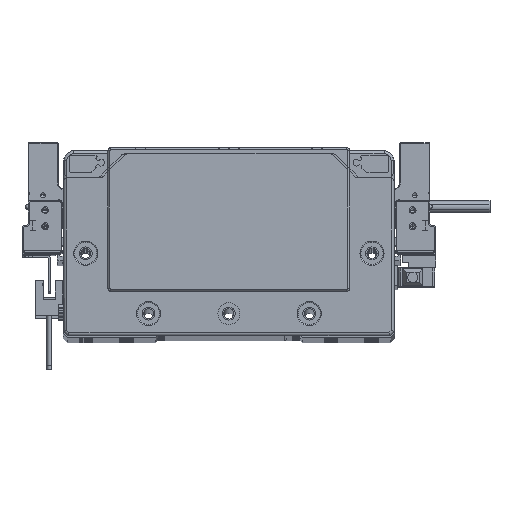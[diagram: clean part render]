
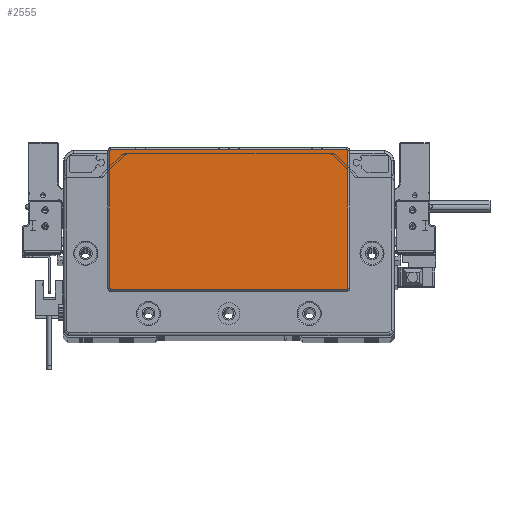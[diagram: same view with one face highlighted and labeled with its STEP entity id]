
A CAD part, top view. The second image highlights one B-rep face of the part: STEP entity #2555.
In plain terms, the highlighted planar face has unit normal (0, 0, 1) as drawn and (0, 0, -1) by its records, which use the part's own axes.
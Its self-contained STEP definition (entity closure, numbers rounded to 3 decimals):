
#837 = CARTESIAN_POINT ( 'NONE',  ( -58.75, -23.8, -2. ) ) ;
#1759 = EDGE_CURVE ( 'NONE', #101731, #76796, #59670, .T. ) ;
#2229 = EDGE_LOOP ( 'NONE', ( #11647, #112128, #11498, #8439, #112436, #88813, #46484, #111985 ) ) ;
#2539 = LINE ( 'NONE', #837, #68843 ) ;
#2555 = ADVANCED_FACE ( 'NONE', ( #23507 ), #77328, .T. ) ;
#8439 = ORIENTED_EDGE ( 'NONE', *, *, #30281, .T. ) ;
#11498 = ORIENTED_EDGE ( 'NONE', *, *, #15985, .T. ) ;
#11647 = ORIENTED_EDGE ( 'NONE', *, *, #1759, .T. ) ;
#13605 = DIRECTION ( 'NONE',  ( 0., 0., -1. ) ) ;
#15585 = VERTEX_POINT ( 'NONE', #83645 ) ;
#15645 = EDGE_CURVE ( 'NONE', #67702, #101731, #93011, .T. ) ;
#15985 = EDGE_CURVE ( 'NONE', #89139, #103122, #2539, .T. ) ;
#18938 = DIRECTION ( 'NONE',  ( -1., 0., 0. ) ) ;
#20360 = CARTESIAN_POINT ( 'NONE',  ( -58.75, -23.8, -2. ) ) ;
#23507 = FACE_OUTER_BOUND ( 'NONE', #2229, .T. ) ;
#27985 = CARTESIAN_POINT ( 'NONE',  ( -59.25, 45.3, -2. ) ) ;
#29533 = VECTOR ( 'NONE', #106668, 1000. ) ;
#30281 = EDGE_CURVE ( 'NONE', #103122, #77302, #99780, .T. ) ;
#33387 = DIRECTION ( 'NONE',  ( 0., 0., -1. ) ) ;
#33539 = CARTESIAN_POINT ( 'NONE',  ( -58.75, 45.8, -2. ) ) ;
#35410 = DIRECTION ( 'NONE',  ( -1., 0., 0. ) ) ;
#35652 = VECTOR ( 'NONE', #86287, 1000. ) ;
#38263 = CARTESIAN_POINT ( 'NONE',  ( 58.75, 45.8, -2. ) ) ;
#42523 = CARTESIAN_POINT ( 'NONE',  ( 58.75, 45.8, -2. ) ) ;
#42884 = CARTESIAN_POINT ( 'NONE',  ( 59.25, -23.3, -2. ) ) ;
#42936 = DIRECTION ( 'NONE',  ( 0., 0., -1. ) ) ;
#43297 = CARTESIAN_POINT ( 'NONE',  ( -58.75, -23.3, -2. ) ) ;
#46484 = ORIENTED_EDGE ( 'NONE', *, *, #81433, .T. ) ;
#48692 = AXIS2_PLACEMENT_3D ( 'NONE', #92892, #13605, #57059 ) ;
#49417 = DIRECTION ( 'NONE',  ( -1., 0., 0. ) ) ;
#49994 = CARTESIAN_POINT ( 'NONE',  ( -58.75, 45.3, -2. ) ) ;
#52187 = CARTESIAN_POINT ( 'NONE',  ( 58.75, -23.3, -2. ) ) ;
#53541 = CARTESIAN_POINT ( 'NONE',  ( 58.75, -23.8, -2. ) ) ;
#55725 = LINE ( 'NONE', #27985, #29533 ) ;
#57059 = DIRECTION ( 'NONE',  ( -1., 0., 0. ) ) ;
#59670 = LINE ( 'NONE', #42884, #35652 ) ;
#62368 = DIRECTION ( 'NONE',  ( 0., 0., -1. ) ) ;
#66366 = EDGE_CURVE ( 'NONE', #76796, #89139, #105454, .T. ) ;
#67245 = AXIS2_PLACEMENT_3D ( 'NONE', #105069, #33387, #68644 ) ;
#67702 = VERTEX_POINT ( 'NONE', #38263 ) ;
#67817 = CARTESIAN_POINT ( 'NONE',  ( 59.25, -23.3, -2. ) ) ;
#68644 = DIRECTION ( 'NONE',  ( -1., 0., 0. ) ) ;
#68843 = VECTOR ( 'NONE', #106727, 1000. ) ;
#69008 = AXIS2_PLACEMENT_3D ( 'NONE', #49994, #85266, #49417 ) ;
#70607 = EDGE_CURVE ( 'NONE', #15585, #104789, #100469, .T. ) ;
#72644 = VECTOR ( 'NONE', #77804, 1000. ) ;
#74054 = AXIS2_PLACEMENT_3D ( 'NONE', #52187, #42936, #35410 ) ;
#76544 = EDGE_CURVE ( 'NONE', #77302, #15585, #55725, .T. ) ;
#76796 = VERTEX_POINT ( 'NONE', #67817 ) ;
#77302 = VERTEX_POINT ( 'NONE', #79782 ) ;
#77328 = PLANE ( 'NONE',  #67245 ) ;
#77804 = DIRECTION ( 'NONE',  ( 1., 0., 0. ) ) ;
#79782 = CARTESIAN_POINT ( 'NONE',  ( -59.25, -23.3, -2. ) ) ;
#81433 = EDGE_CURVE ( 'NONE', #104789, #67702, #96855, .T. ) ;
#83645 = CARTESIAN_POINT ( 'NONE',  ( -59.25, 45.3, -2. ) ) ;
#85266 = DIRECTION ( 'NONE',  ( 0., 0., -1. ) ) ;
#86287 = DIRECTION ( 'NONE',  ( 0., -1., 0. ) ) ;
#86894 = AXIS2_PLACEMENT_3D ( 'NONE', #43297, #62368, #18938 ) ;
#88813 = ORIENTED_EDGE ( 'NONE', *, *, #70607, .T. ) ;
#89139 = VERTEX_POINT ( 'NONE', #53541 ) ;
#92892 = CARTESIAN_POINT ( 'NONE',  ( 58.75, 45.3, -2. ) ) ;
#93011 = CIRCLE ( 'NONE', #48692, 0.5 ) ;
#93902 = CARTESIAN_POINT ( 'NONE',  ( 59.25, 45.3, -2. ) ) ;
#96855 = LINE ( 'NONE', #42523, #72644 ) ;
#99780 = CIRCLE ( 'NONE', #86894, 0.5 ) ;
#100469 = CIRCLE ( 'NONE', #69008, 0.5 ) ;
#101731 = VERTEX_POINT ( 'NONE', #93902 ) ;
#103122 = VERTEX_POINT ( 'NONE', #20360 ) ;
#104789 = VERTEX_POINT ( 'NONE', #33539 ) ;
#105069 = CARTESIAN_POINT ( 'NONE',  ( 0., 0., -2. ) ) ;
#105454 = CIRCLE ( 'NONE', #74054, 0.5 ) ;
#106668 = DIRECTION ( 'NONE',  ( 0., 1., 0. ) ) ;
#106727 = DIRECTION ( 'NONE',  ( -1., 0., 0. ) ) ;
#111985 = ORIENTED_EDGE ( 'NONE', *, *, #15645, .T. ) ;
#112128 = ORIENTED_EDGE ( 'NONE', *, *, #66366, .T. ) ;
#112436 = ORIENTED_EDGE ( 'NONE', *, *, #76544, .T. ) ;
